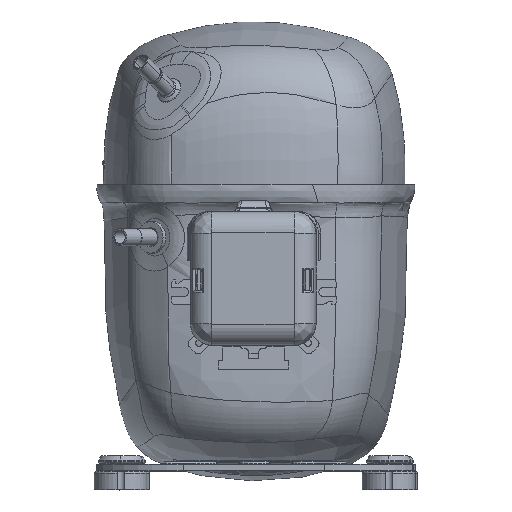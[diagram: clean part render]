
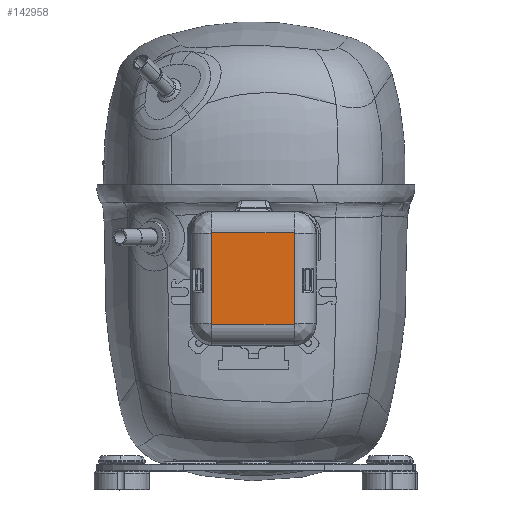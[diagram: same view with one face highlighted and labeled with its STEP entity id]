
A CAD part, front view. The second image highlights one B-rep face of the part: STEP entity #142958.
In plain terms, the highlighted planar face has unit normal (-0.01, -1, 0.001) as drawn and (0, -1, 0) by its records, which use the part's own axes.
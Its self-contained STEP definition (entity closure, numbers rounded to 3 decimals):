
#137607=CARTESIAN_POINT('',(19.5,-2.2,21.45));
#137608=DIRECTION('',(0.,1.,0.));
#137609=DIRECTION('',(0.,0.,1.));
#137610=AXIS2_PLACEMENT_3D('',#137607,#137608,#137609);
#137612=CARTESIAN_POINT('',(19.5,-2.2,-21.45));
#137613=DIRECTION('',(0.,1.,0.));
#137614=DIRECTION('',(1.,0.,0.));
#137615=AXIS2_PLACEMENT_3D('',#137612,#137613,#137614);
#137617=CARTESIAN_POINT('',(-19.5,-2.2,-21.45));
#137618=DIRECTION('',(0.,1.,0.));
#137619=DIRECTION('',(0.,0.,-1.));
#137620=AXIS2_PLACEMENT_3D('',#137617,#137618,#137619);
#137622=CARTESIAN_POINT('',(-19.5,-2.2,21.45));
#137623=DIRECTION('',(0.,1.,0.));
#137624=DIRECTION('',(-1.,0.,0.));
#137625=AXIS2_PLACEMENT_3D('',#137622,#137623,#137624);
#137642=DIRECTION('',(-1.,0.,0.));
#137643=VECTOR('',#137642,39.);
#137644=CARTESIAN_POINT('',(19.5,-2.2,21.65));
#137645=LINE('',#137644,#137643);
#137665=DIRECTION('',(0.,0.,-1.));
#137666=VECTOR('',#137665,42.9);
#137667=CARTESIAN_POINT('',(-19.7,-2.2,21.45));
#137668=LINE('',#137667,#137666);
#137692=DIRECTION('',(1.,0.,0.));
#137693=VECTOR('',#137692,39.);
#137694=CARTESIAN_POINT('',(-19.5,-2.2,-21.65));
#137695=LINE('',#137694,#137693);
#137715=DIRECTION('',(0.,0.,1.));
#137716=VECTOR('',#137715,42.9);
#137717=CARTESIAN_POINT('',(19.7,-2.2,-21.45));
#137718=LINE('',#137717,#137716);
#141993=CARTESIAN_POINT('',(19.5,-2.2,21.65));
#141994=CARTESIAN_POINT('',(19.7,-2.2,21.45));
#141995=VERTEX_POINT('',#141993);
#141996=VERTEX_POINT('',#141994);
#141997=CARTESIAN_POINT('',(19.7,-2.2,-21.45));
#141998=VERTEX_POINT('',#141997);
#141999=CARTESIAN_POINT('',(19.5,-2.2,-21.65));
#142000=VERTEX_POINT('',#141999);
#142001=CARTESIAN_POINT('',(-19.5,-2.2,-21.65));
#142002=VERTEX_POINT('',#142001);
#142003=CARTESIAN_POINT('',(-19.7,-2.2,-21.45));
#142004=VERTEX_POINT('',#142003);
#142005=CARTESIAN_POINT('',(-19.7,-2.2,21.45));
#142006=VERTEX_POINT('',#142005);
#142007=CARTESIAN_POINT('',(-19.5,-2.2,21.65));
#142008=VERTEX_POINT('',#142007);
#142935=CARTESIAN_POINT('',(0.,-2.2,0.));
#142936=DIRECTION('',(0.,1.,0.));
#142937=DIRECTION('',(1.,0.,0.));
#142938=AXIS2_PLACEMENT_3D('',#142935,#142936,#142937);
#142939=PLANE('',#142938);
#142941=ORIENTED_EDGE('',*,*,#142940,.T.);
#142943=ORIENTED_EDGE('',*,*,#142942,.F.);
#142945=ORIENTED_EDGE('',*,*,#142944,.T.);
#142947=ORIENTED_EDGE('',*,*,#142946,.F.);
#142949=ORIENTED_EDGE('',*,*,#142948,.T.);
#142951=ORIENTED_EDGE('',*,*,#142950,.F.);
#142953=ORIENTED_EDGE('',*,*,#142952,.T.);
#142955=ORIENTED_EDGE('',*,*,#142954,.F.);
#142956=EDGE_LOOP('',(#142941,#142943,#142945,#142947,#142949,#142951,#142953,
#142955));
#142957=FACE_OUTER_BOUND('',#142956,.F.);
#142958=ADVANCED_FACE('',(#142957),#142939,.F.);
#137611=CIRCLE('',#137610,0.2);
#137616=CIRCLE('',#137615,0.2);
#137621=CIRCLE('',#137620,0.2);
#137626=CIRCLE('',#137625,0.2);
#142940=EDGE_CURVE('',#141995,#141996,#137611,.T.);
#142942=EDGE_CURVE('',#141998,#141996,#137718,.T.);
#142944=EDGE_CURVE('',#141998,#142000,#137616,.T.);
#142946=EDGE_CURVE('',#142002,#142000,#137695,.T.);
#142948=EDGE_CURVE('',#142002,#142004,#137621,.T.);
#142950=EDGE_CURVE('',#142006,#142004,#137668,.T.);
#142952=EDGE_CURVE('',#142006,#142008,#137626,.T.);
#142954=EDGE_CURVE('',#141995,#142008,#137645,.T.);
